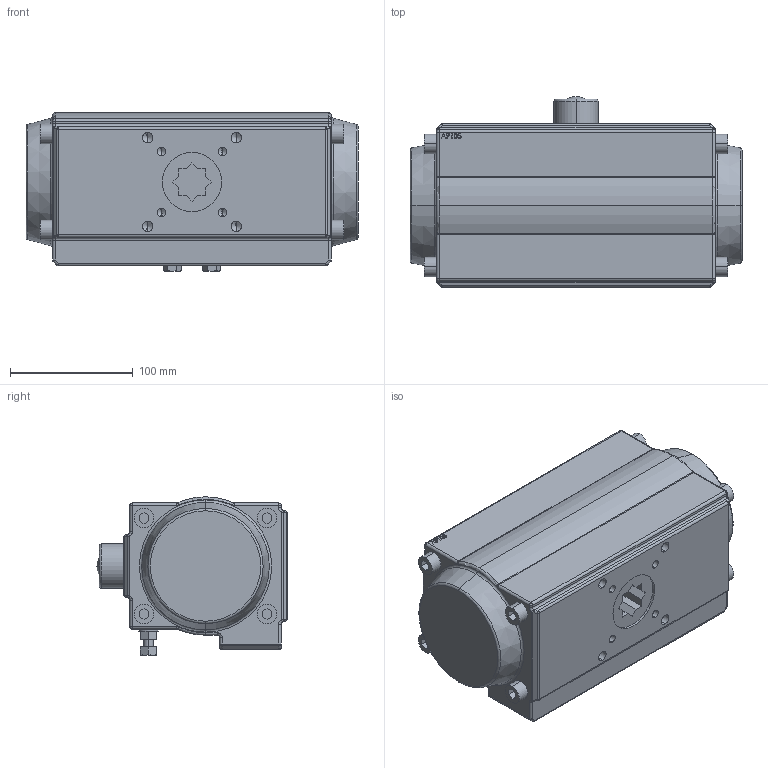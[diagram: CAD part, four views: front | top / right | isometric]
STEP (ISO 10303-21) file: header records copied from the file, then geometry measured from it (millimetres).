
FILE_DESCRIPTION (( 'STEP AP203' ), '1' );
FILE_NAME ('AP105.STEP', '2020-04-08T11:53:37', ( '' ), ( '' ), 'SwSTEP 2.0', 'SolidWorks 2017', '' );
FILE_SCHEMA (( 'CONFIG_CONTROL_DESIGN' ));
Length unit declared in the file: millimetre
Products named in the file (1): AP105
Bounding box: 270 x 155 x 128.72 mm (x, y, z)
Volume: 3616290.4 mm3; surface area: 166028.4 mm2
Topology: 1 solids, 1 shells, 501 faces, 1185 edges, 697 vertices
Faces by surface type: plane 205, cylinder 126, cone 68, bspline 40, sphere 32, torus 30
Entity records: 16156 total; most frequent: CARTESIAN_POINT 4982, DIRECTION 2285, ORIENTED_EDGE 2270, EDGE_CURVE 1135, AXIS2_PLACEMENT_3D 816, VERTEX_POINT 697, VECTOR 653, LINE 653
